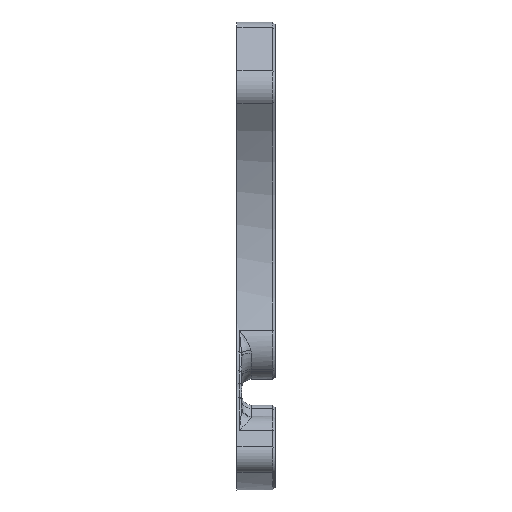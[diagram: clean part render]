
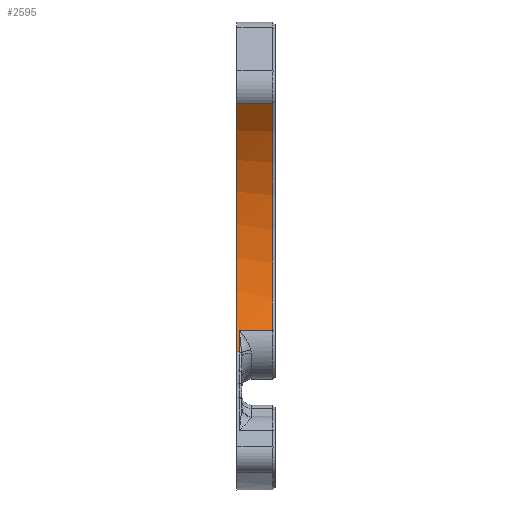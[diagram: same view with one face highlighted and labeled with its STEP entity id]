
A CAD part, front view. The second image highlights one B-rep face of the part: STEP entity #2595.
In plain terms, the highlighted cylindrical face has radius 45 mm (diameter 90 mm), a partial arc.
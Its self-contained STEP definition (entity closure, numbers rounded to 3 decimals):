
#39=CARTESIAN_POINT('',(-62.5,-4.601,-71.157));
#40=DIRECTION('',(-1.,0.,0.));
#41=DIRECTION('',(0.,0.765,0.644));
#42=AXIS2_PLACEMENT_3D('',#39,#40,#41);
#776=CARTESIAN_POINT('',(-62.,-4.601,-71.157));
#777=DIRECTION('',(1.,0.,0.));
#778=DIRECTION('',(0.,0.86,-0.511));
#779=AXIS2_PLACEMENT_3D('',#776,#777,#778);
#788=CARTESIAN_POINT('',(-55.,-4.601,-71.157));
#789=DIRECTION('',(-1.,0.,0.));
#790=DIRECTION('',(0.,0.765,0.644));
#791=AXIS2_PLACEMENT_3D('',#788,#789,#790);
#793=DIRECTION('',(-1.,0.,0.));
#794=VECTOR('',#793,7.);
#795=CARTESIAN_POINT('',(-55.,36.432,-89.631));
#796=LINE('',#795,#794);
#797=DIRECTION('',(1.,0.,0.));
#798=VECTOR('',#797,7.5);
#799=CARTESIAN_POINT('',(-62.5,29.827,-42.178));
#800=LINE('',#799,#798);
#878=DIRECTION('',(1.,0.,0.));
#879=VECTOR('',#878,0.5);
#880=CARTESIAN_POINT('',(-62.5,34.09,-94.135));
#881=LINE('',#880,#879);
#1363=CARTESIAN_POINT('',(-62.5,29.827,-42.178));
#1364=VERTEX_POINT('',#1363);
#1365=CARTESIAN_POINT('',(-62.5,34.09,-94.135));
#1366=VERTEX_POINT('',#1365);
#1479=CARTESIAN_POINT('',(-62.,34.09,-94.135));
#1481=VERTEX_POINT('',#1479);
#1483=CARTESIAN_POINT('',(-62.,36.432,-89.631));
#1484=VERTEX_POINT('',#1483);
#1655=CARTESIAN_POINT('',(-55.,29.827,-42.178));
#1656=VERTEX_POINT('',#1655);
#1659=CARTESIAN_POINT('',(-55.,36.432,-89.631));
#1660=VERTEX_POINT('',#1659);
#2578=CARTESIAN_POINT('',(-1340.213,-4.601,
-71.157));
#2579=DIRECTION('',(1.,0.,0.));
#2580=DIRECTION('',(0.,0.,1.));
#2581=AXIS2_PLACEMENT_3D('',#2578,#2579,#2580);
#2582=CYLINDRICAL_SURFACE('',#2581,45.);
#2584=ORIENTED_EDGE('',*,*,#2583,.T.);
#2586=ORIENTED_EDGE('',*,*,#2585,.T.);
#2587=ORIENTED_EDGE('',*,*,#2570,.F.);
#2589=ORIENTED_EDGE('',*,*,#2588,.F.);
#2590=ORIENTED_EDGE('',*,*,#1742,.F.);
#2592=ORIENTED_EDGE('',*,*,#2591,.T.);
#2593=EDGE_LOOP('',(#2584,#2586,#2587,#2589,#2590,#2592));
#2594=FACE_OUTER_BOUND('',#2593,.F.);
#2595=ADVANCED_FACE('',(#2594),#2582,.F.);
#43=CIRCLE('',#42,45.);
#780=CIRCLE('',#779,45.);
#792=CIRCLE('',#791,45.);
#1742=EDGE_CURVE('',#1364,#1366,#43,.T.);
#2570=EDGE_CURVE('',#1481,#1484,#780,.T.);
#2583=EDGE_CURVE('',#1656,#1660,#792,.T.);
#2585=EDGE_CURVE('',#1660,#1484,#796,.T.);
#2588=EDGE_CURVE('',#1366,#1481,#881,.T.);
#2591=EDGE_CURVE('',#1364,#1656,#800,.T.);
